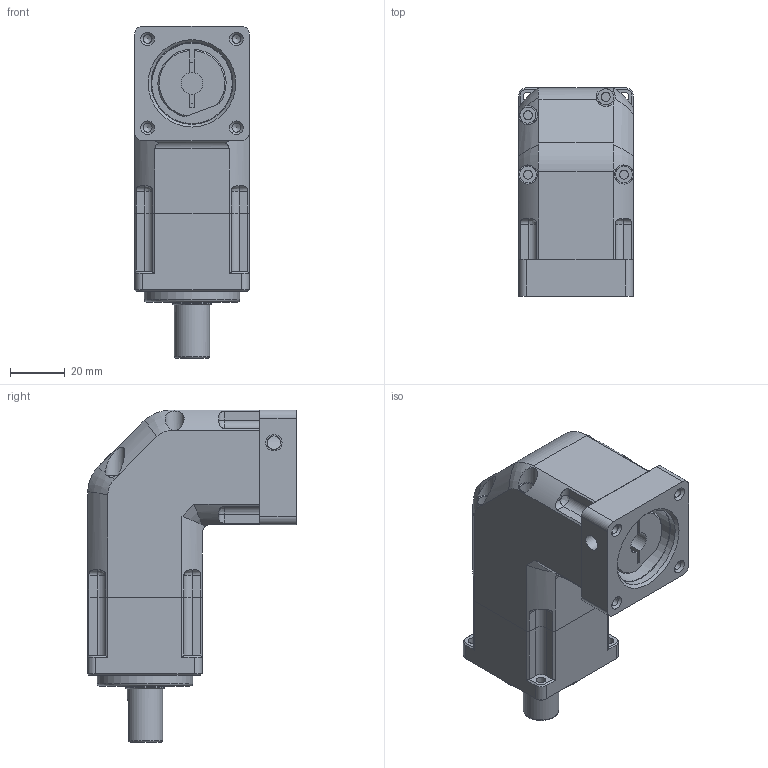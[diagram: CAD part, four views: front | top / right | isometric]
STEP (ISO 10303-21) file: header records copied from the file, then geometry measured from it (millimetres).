
FILE_DESCRIPTION((''),'2;1');
FILE_NAME('C:\Documents and Settings\nagyu\바탕 화면\유성감속기 3D\SPL042\SPL042S003~10KA.stp','2009-10-27T09:42:26',('nagyu'),(''),'Autodesk Inventor 2010','Autodesk Inventor 2010','');
FILE_SCHEMA(('AUTOMOTIVE_DESIGN { 1 0 10303 214 1 1 1 1 }'));
Length unit declared in the file: millimetre
Products named in the file (4): SPL042 1단; SPI042; 42각 GEARCASE; 42각 INPUT ADAPTER FLANGE
Assembly tree (3 placements, depth 2):
  SPL042 1단
    SPI042
    42각 GEARCASE
    42각 INPUT ADAPTER FLANGE
Bounding box: 42 x 76.5 x 121.6 mm (x, y, z)
Volume: 167436.6 mm3; surface area: 43543.9 mm2
Topology: 3 solids, 3 shells, 261 faces, 683 edges, 443 vertices
Faces by surface type: plane 105, cylinder 80, bspline 58, cone 15, torus 3
Full cylindrical faces by diameter (mm): 5.9 x2, 6 x2, 8 x1, 13 x1, 14.2 x1, 15 x1, 32 x2, 35 x1, 37 x2, 38 x1
Entity records: 8955 total; most frequent: CARTESIAN_POINT 2921, ORIENTED_EDGE 1174, DIRECTION 1160, EDGE_CURVE 587, AXIS2_PLACEMENT_3D 439, VERTEX_POINT 406, EDGE_LOOP 357, VECTOR 282
